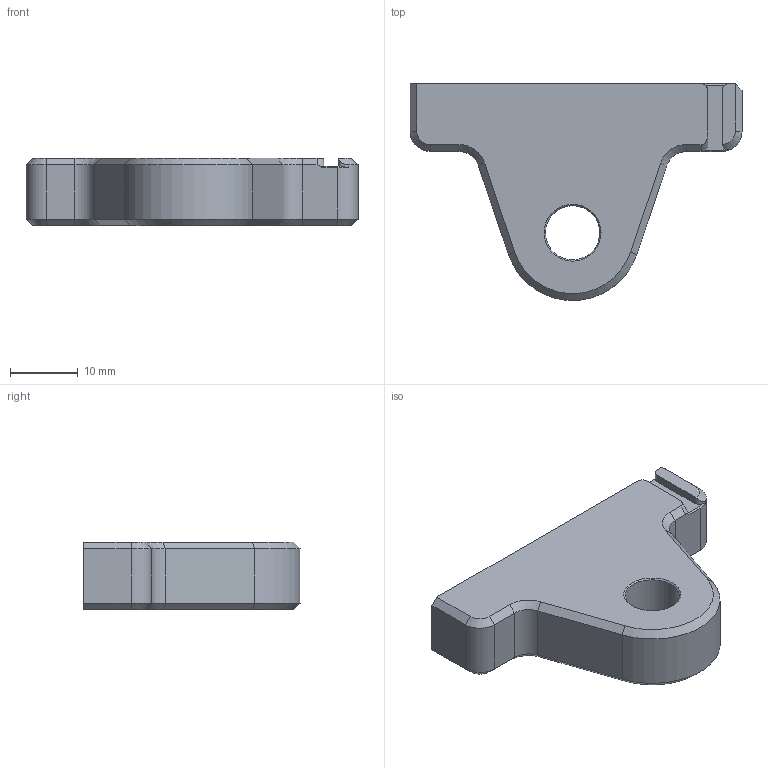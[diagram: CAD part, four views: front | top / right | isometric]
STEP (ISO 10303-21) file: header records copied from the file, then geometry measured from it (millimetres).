
FILE_DESCRIPTION(/* description */ (''),/* implementation_level */ '2;1');
FILE_NAME(/* name */ 'D:\IN 制图\设备\手动剥线机带侧刀4.02\工程图\吊耳R1.stp',/* time_stamp */ '2026-06-23T11:05:27+08:00',/* author */ ('ROG'),/* organization */ (''),/* preprocessor_version */ 'ST-DEVELOPER v19',/* originating_system */ 'Autodesk Inventor 2023',/* authorisation */ '');
FILE_SCHEMA (('AUTOMOTIVE_DESIGN { 1 0 10303 214 3 1 1 }'));
Length unit declared in the file: millimetre
Products named in the file (1): 吊耳R1
Bounding box: 49 x 31.97 x 10 mm (x, y, z)
Volume: 7996.8 mm3; surface area: 3958.3 mm2
Topology: 1 solids, 1 shells, 63 faces, 151 edges, 92 vertices
Faces by surface type: plane 30, cone 19, cylinder 14
Full cylindrical faces by diameter (mm): 4.917 x2, 6 x2, 8 x1
Entity records: 1944 total; most frequent: DIRECTION 328, CARTESIAN_POINT 325, ORIENTED_EDGE 298, EDGE_CURVE 149, AXIS2_PLACEMENT_3D 117, LINE 94, VECTOR 94, VERTEX_POINT 92
